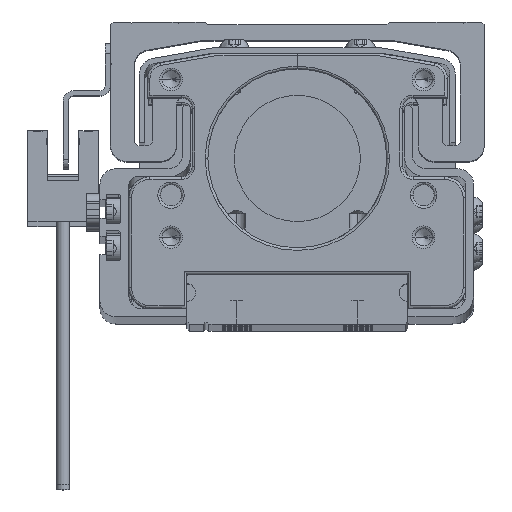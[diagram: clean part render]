
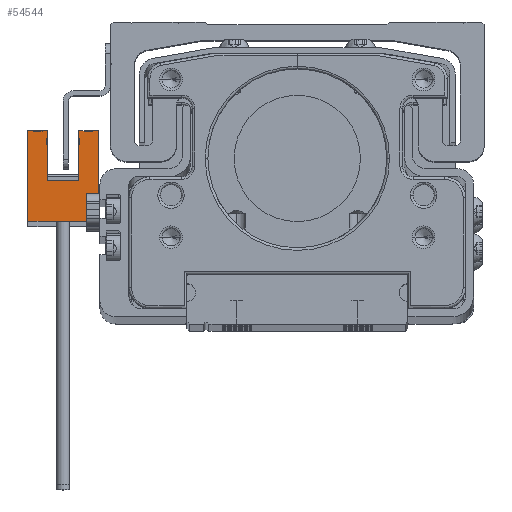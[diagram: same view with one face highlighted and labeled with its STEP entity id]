
A CAD part, top view. The second image highlights one B-rep face of the part: STEP entity #54544.
In plain terms, the highlighted planar face has unit normal (0, 0, 1) as drawn and (-1, 0, 0) by its records, which use the part's own axes.
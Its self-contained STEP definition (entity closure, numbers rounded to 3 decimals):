
#1328 = EDGE_CURVE ( 'NONE', #5989, #22245, #4862, .T. ) ;
#1845 = VECTOR ( 'NONE', #11398, 1000. ) ;
#2332 = DIRECTION ( 'NONE',  ( 0., -1., 0. ) ) ;
#2704 = CARTESIAN_POINT ( 'NONE',  ( -3., 2., 6. ) ) ;
#3559 = VECTOR ( 'NONE', #14792, 1000. ) ;
#3615 = VECTOR ( 'NONE', #47637, 1000. ) ;
#3707 = VECTOR ( 'NONE', #46918, 1000. ) ;
#4117 = CARTESIAN_POINT ( 'NONE',  ( -3., -15.2, -3.7 ) ) ;
#4856 = DIRECTION ( 'NONE',  ( 0., 0., -1. ) ) ;
#4862 = LINE ( 'NONE', #32466, #50294 ) ;
#4934 = LINE ( 'NONE', #15398, #3559 ) ;
#5856 = CARTESIAN_POINT ( 'NONE',  ( -3., -7.4, 0. ) ) ;
#5989 = VERTEX_POINT ( 'NONE', #35096 ) ;
#7001 = CARTESIAN_POINT ( 'NONE',  ( -3., -16.1, 7.5 ) ) ;
#7330 = ORIENTED_EDGE ( 'NONE', *, *, #49008, .T. ) ;
#7405 = EDGE_CURVE ( 'NONE', #19007, #39656, #36802, .T. ) ;
#11398 = DIRECTION ( 'NONE',  ( 0., 1., 0. ) ) ;
#12381 = EDGE_CURVE ( 'NONE', #39656, #22109, #39228, .T. ) ;
#12779 = DIRECTION ( 'NONE',  ( -1., 0., 0. ) ) ;
#12919 = LINE ( 'NONE', #14812, #54976 ) ;
#14792 = DIRECTION ( 'NONE',  ( 0., 0., 1. ) ) ;
#14812 = CARTESIAN_POINT ( 'NONE',  ( -3., 2., -3.7 ) ) ;
#15398 = CARTESIAN_POINT ( 'NONE',  ( -3., -15.2, -3.7 ) ) ;
#16107 = LINE ( 'NONE', #26465, #51245 ) ;
#16194 = VERTEX_POINT ( 'NONE', #4117 ) ;
#16739 = CARTESIAN_POINT ( 'NONE',  ( -3., 2., -3.7 ) ) ;
#16838 = VERTEX_POINT ( 'NONE', #32752 ) ;
#17285 = DIRECTION ( 'NONE',  ( 0., -1., 0. ) ) ;
#19007 = VERTEX_POINT ( 'NONE', #39551 ) ;
#19484 = EDGE_CURVE ( 'NONE', #16838, #29731, #51261, .T. ) ;
#20159 = VECTOR ( 'NONE', #25260, 1000. ) ;
#20369 = ORIENTED_EDGE ( 'NONE', *, *, #39673, .T. ) ;
#20465 = EDGE_CURVE ( 'NONE', #29731, #19007, #42775, .T. ) ;
#21333 = CARTESIAN_POINT ( 'NONE',  ( -3., 2., 6. ) ) ;
#22016 = CARTESIAN_POINT ( 'NONE',  ( -3., 2., -3.7 ) ) ;
#22109 = VERTEX_POINT ( 'NONE', #26609 ) ;
#22245 = VERTEX_POINT ( 'NONE', #22016 ) ;
#23883 = ORIENTED_EDGE ( 'NONE', *, *, #12381, .T. ) ;
#24414 = ORIENTED_EDGE ( 'NONE', *, *, #20465, .T. ) ;
#25260 = DIRECTION ( 'NONE',  ( 0., 0., 1. ) ) ;
#25319 = CARTESIAN_POINT ( 'NONE',  ( -3., -9.9, -3.7 ) ) ;
#25422 = LINE ( 'NONE', #46931, #3707 ) ;
#26275 = LINE ( 'NONE', #7001, #1845 ) ;
#26465 = CARTESIAN_POINT ( 'NONE',  ( -3., -7.4, -3.7 ) ) ;
#26609 = CARTESIAN_POINT ( 'NONE',  ( -3., -7.4, 6. ) ) ;
#27939 = ORIENTED_EDGE ( 'NONE', *, *, #28243, .T. ) ;
#28243 = EDGE_CURVE ( 'NONE', #16194, #33469, #4934, .T. ) ;
#29731 = VERTEX_POINT ( 'NONE', #35982 ) ;
#30965 = EDGE_LOOP ( 'NONE', ( #27939, #7330, #42656, #24414, #38352, #23883, #44965, #39022, #31744, #20369 ) ) ;
#31744 = ORIENTED_EDGE ( 'NONE', *, *, #1328, .T. ) ;
#31827 = DIRECTION ( 'NONE',  ( 0., 0., -1. ) ) ;
#32466 = CARTESIAN_POINT ( 'NONE',  ( -3., 2., -3.7 ) ) ;
#32752 = CARTESIAN_POINT ( 'NONE',  ( -3., -9.9, 7.5 ) ) ;
#33469 = VERTEX_POINT ( 'NONE', #45483 ) ;
#34307 = PLANE ( 'NONE',  #48627 ) ;
#34743 = FACE_OUTER_BOUND ( 'NONE', #30965, .T. ) ;
#35096 = CARTESIAN_POINT ( 'NONE',  ( -3., 2., 0. ) ) ;
#35982 = CARTESIAN_POINT ( 'NONE',  ( -3., -9.9, 9.7 ) ) ;
#36802 = LINE ( 'NONE', #47625, #3615 ) ;
#38352 = ORIENTED_EDGE ( 'NONE', *, *, #7405, .T. ) ;
#39022 = ORIENTED_EDGE ( 'NONE', *, *, #42513, .T. ) ;
#39228 = LINE ( 'NONE', #2704, #50223 ) ;
#39551 = CARTESIAN_POINT ( 'NONE',  ( -3., 2., 9.7 ) ) ;
#39656 = VERTEX_POINT ( 'NONE', #21333 ) ;
#39673 = EDGE_CURVE ( 'NONE', #22245, #16194, #12919, .T. ) ;
#42513 = EDGE_CURVE ( 'NONE', #47244, #5989, #25422, .T. ) ;
#42656 = ORIENTED_EDGE ( 'NONE', *, *, #19484, .T. ) ;
#42729 = DIRECTION ( 'NONE',  ( 0., 0., 1. ) ) ;
#42775 = LINE ( 'NONE', #52989, #53702 ) ;
#44965 = ORIENTED_EDGE ( 'NONE', *, *, #51511, .T. ) ;
#45483 = CARTESIAN_POINT ( 'NONE',  ( -3., -15.2, 7.5 ) ) ;
#46918 = DIRECTION ( 'NONE',  ( 0., 1., 0. ) ) ;
#46931 = CARTESIAN_POINT ( 'NONE',  ( -3., 2., 0. ) ) ;
#47244 = VERTEX_POINT ( 'NONE', #5856 ) ;
#47625 = CARTESIAN_POINT ( 'NONE',  ( -3., 2., -3.7 ) ) ;
#47637 = DIRECTION ( 'NONE',  ( 0., 0., -1. ) ) ;
#48627 = AXIS2_PLACEMENT_3D ( 'NONE', #16739, #12779, #42729 ) ;
#49008 = EDGE_CURVE ( 'NONE', #33469, #16838, #26275, .T. ) ;
#50223 = VECTOR ( 'NONE', #2332, 1000. ) ;
#50294 = VECTOR ( 'NONE', #31827, 1000. ) ;
#51245 = VECTOR ( 'NONE', #4856, 1000. ) ;
#51261 = LINE ( 'NONE', #25319, #20159 ) ;
#51511 = EDGE_CURVE ( 'NONE', #22109, #47244, #16107, .T. ) ;
#52244 = DIRECTION ( 'NONE',  ( 0., 1., 0. ) ) ;
#52989 = CARTESIAN_POINT ( 'NONE',  ( -3., 2., 9.7 ) ) ;
#53702 = VECTOR ( 'NONE', #52244, 1000. ) ;
#54544 = ADVANCED_FACE ( 'NONE', ( #34743 ), #34307, .T. ) ;
#54976 = VECTOR ( 'NONE', #17285, 1000. ) ;
